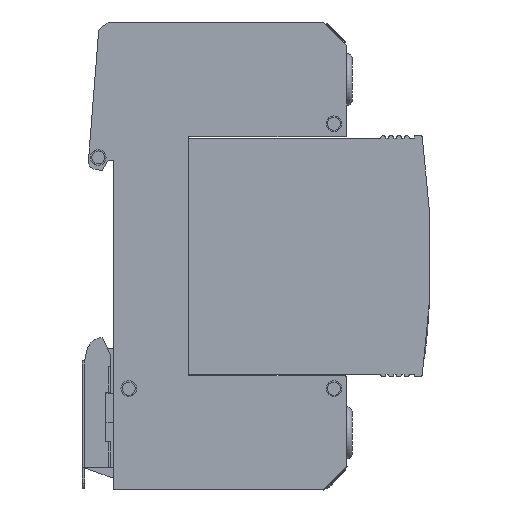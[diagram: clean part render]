
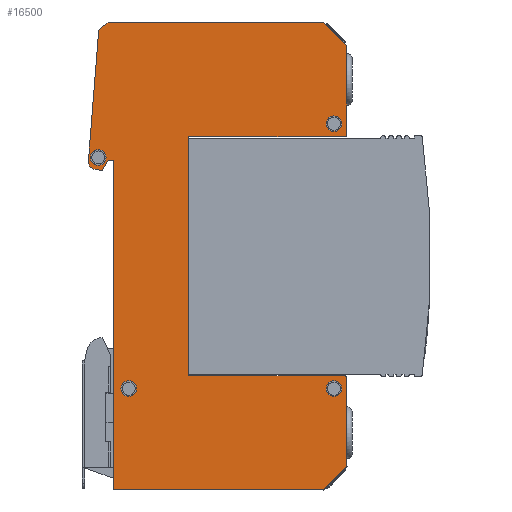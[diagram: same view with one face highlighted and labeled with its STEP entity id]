
A CAD part, front view. The second image highlights one B-rep face of the part: STEP entity #16500.
In plain terms, the highlighted planar face has unit normal (0, -1, 0).
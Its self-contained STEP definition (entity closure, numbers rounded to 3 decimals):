
#14700=CARTESIAN_POINT('',(-14.5,-18.,-45.));
#14701=VERTEX_POINT('',#14700);
#14702=CARTESIAN_POINT('',(26.,-18.,-45.));
#14703=VERTEX_POINT('',#14702);
#14704=CARTESIAN_POINT('',(-14.5,-18.,-45.));
#14705=DIRECTION('',(1.,0.,-0.));
#14706=VECTOR('',#14705,40.5);
#14707=LINE('',#14704,#14706);
#14708=EDGE_CURVE('',#14701,#14703,#14707,.T.);
#15370=CARTESIAN_POINT('',(-14.5,-18.,18.5));
#15371=VERTEX_POINT('',#15370);
#15372=CARTESIAN_POINT('',(-14.5,-18.,18.5));
#15373=DIRECTION('',(0.,0.,-1.));
#15374=VECTOR('',#15373,63.5);
#15375=LINE('',#15372,#15374);
#15376=EDGE_CURVE('',#15371,#14701,#15375,.T.);
#15571=CARTESIAN_POINT('',(-15.5,-18.,45.));
#15572=VERTEX_POINT('',#15571);
#15573=CARTESIAN_POINT('',(-17.29,-18.,43.498));
#15574=VERTEX_POINT('',#15573);
#15575=CARTESIAN_POINT('',(-15.5,-18.,45.));
#15576=DIRECTION('',(-0.766,0.,-0.643));
#15577=VECTOR('',#15576,2.337);
#15578=LINE('',#15575,#15577);
#15579=EDGE_CURVE('',#15572,#15574,#15578,.T.);
#15611=CARTESIAN_POINT('',(-19.273,-18.,18.306));
#15612=VERTEX_POINT('',#15611);
#15613=CARTESIAN_POINT('',(-17.29,-18.,43.498));
#15614=DIRECTION('',(-0.078,0.,-0.997));
#15615=VECTOR('',#15614,25.27);
#15616=LINE('',#15613,#15615);
#15617=EDGE_CURVE('',#15574,#15612,#15616,.T.);
#15642=CARTESIAN_POINT('',(-17.999,-18.,16.704));
#15643=VERTEX_POINT('',#15642);
#15644=CARTESIAN_POINT('',(-17.777,-18.,18.188));
#15645=DIRECTION('',(0.,-1.,0.));
#15646=DIRECTION('',(0.,0.,1.));
#15647=AXIS2_PLACEMENT_3D('',#15644,#15645,#15646);
#15648=CIRCLE('',#15647,1.5);
#15649=EDGE_CURVE('',#15612,#15643,#15648,.T.);
#15675=CARTESIAN_POINT('',(-16.632,-18.,16.5));
#15676=VERTEX_POINT('',#15675);
#15677=CARTESIAN_POINT('',(-17.999,-18.,16.704));
#15678=DIRECTION('',(0.989,0.,-0.148));
#15679=VECTOR('',#15678,1.383);
#15680=LINE('',#15677,#15679);
#15681=EDGE_CURVE('',#15643,#15676,#15680,.T.);
#15706=CARTESIAN_POINT('',(-15.5,-18.,18.5));
#15707=VERTEX_POINT('',#15706);
#15708=CARTESIAN_POINT('',(-16.632,-18.,16.5));
#15709=DIRECTION('',(0.492,0.,0.87));
#15710=VECTOR('',#15709,2.298);
#15711=LINE('',#15708,#15710);
#15712=EDGE_CURVE('',#15676,#15707,#15711,.T.);
#15737=CARTESIAN_POINT('',(-15.5,-18.,18.5));
#15738=DIRECTION('',(1.,0.,0.));
#15739=VECTOR('',#15738,1.);
#15740=LINE('',#15737,#15739);
#15741=EDGE_CURVE('',#15707,#15371,#15740,.T.);
#15759=CARTESIAN_POINT('',(30.5,-18.,-40.5));
#15760=VERTEX_POINT('',#15759);
#15761=CARTESIAN_POINT('',(26.,-18.,-45.));
#15762=DIRECTION('',(0.707,0.,0.707));
#15763=VECTOR('',#15762,6.364);
#15764=LINE('',#15761,#15763);
#15765=EDGE_CURVE('',#14703,#15760,#15764,.T.);
#15810=CARTESIAN_POINT('',(30.5,-18.,-23.5));
#15811=VERTEX_POINT('',#15810);
#15812=CARTESIAN_POINT('',(30.5,-18.,-40.5));
#15813=DIRECTION('',(0.,0.,1.));
#15814=VECTOR('',#15813,17.);
#15815=LINE('',#15812,#15814);
#15816=EDGE_CURVE('',#15760,#15811,#15815,.T.);
#15841=CARTESIAN_POINT('',(30.,-18.,-23.));
#15842=VERTEX_POINT('',#15841);
#15843=CARTESIAN_POINT('',(30.,-18.,-23.5));
#15844=DIRECTION('',(0.,-1.,0.));
#15845=DIRECTION('',(0.,0.,1.));
#15846=AXIS2_PLACEMENT_3D('',#15843,#15844,#15845);
#15847=CIRCLE('',#15846,0.5);
#15848=EDGE_CURVE('',#15811,#15842,#15847,.T.);
#15874=CARTESIAN_POINT('',(0.,-18.,-23.));
#15875=VERTEX_POINT('',#15874);
#15876=CARTESIAN_POINT('',(30.,-18.,-23.));
#15877=DIRECTION('',(-1.,0.,0.));
#15878=VECTOR('',#15877,30.);
#15879=LINE('',#15876,#15878);
#15880=EDGE_CURVE('',#15842,#15875,#15879,.T.);
#15905=CARTESIAN_POINT('',(0.,-18.,23.));
#15906=VERTEX_POINT('',#15905);
#15907=CARTESIAN_POINT('',(0.,-18.,-23.));
#15908=DIRECTION('',(0.,0.,1.));
#15909=VECTOR('',#15908,46.);
#15910=LINE('',#15907,#15909);
#15911=EDGE_CURVE('',#15875,#15906,#15910,.T.);
#15936=CARTESIAN_POINT('',(30.,-18.,23.));
#15937=VERTEX_POINT('',#15936);
#15938=CARTESIAN_POINT('',(0.,-18.,23.));
#15939=DIRECTION('',(1.,0.,0.));
#15940=VECTOR('',#15939,30.);
#15941=LINE('',#15938,#15940);
#15942=EDGE_CURVE('',#15906,#15937,#15941,.T.);
#15967=CARTESIAN_POINT('',(30.5,-18.,23.5));
#15968=VERTEX_POINT('',#15967);
#15969=CARTESIAN_POINT('',(30.,-18.,23.5));
#15970=DIRECTION('',(0.,-1.,0.));
#15971=DIRECTION('',(0.,0.,1.));
#15972=AXIS2_PLACEMENT_3D('',#15969,#15970,#15971);
#15973=CIRCLE('',#15972,0.5);
#15974=EDGE_CURVE('',#15937,#15968,#15973,.T.);
#16020=CARTESIAN_POINT('',(30.5,-18.,40.5));
#16021=VERTEX_POINT('',#16020);
#16022=CARTESIAN_POINT('',(30.5,-18.,23.5));
#16023=DIRECTION('',(0.,0.,1.));
#16024=VECTOR('',#16023,17.);
#16025=LINE('',#16022,#16024);
#16026=EDGE_CURVE('',#15968,#16021,#16025,.T.);
#16051=CARTESIAN_POINT('',(26.,-18.,45.));
#16052=VERTEX_POINT('',#16051);
#16053=CARTESIAN_POINT('',(30.5,-18.,40.5));
#16054=DIRECTION('',(-0.707,0.,0.707));
#16055=VECTOR('',#16054,6.364);
#16056=LINE('',#16053,#16055);
#16057=EDGE_CURVE('',#16021,#16052,#16056,.T.);
#16082=CARTESIAN_POINT('',(-17.38,-18.,17.5));
#16083=VERTEX_POINT('',#16082);
#16092=CARTESIAN_POINT('',(-18.88,-18.,19.));
#16093=VERTEX_POINT('',#16092);
#16094=CARTESIAN_POINT('',(-17.38,-18.,19.));
#16095=DIRECTION('',(0.,-1.,0.));
#16096=DIRECTION('',(-1.,0.,0.));
#16097=AXIS2_PLACEMENT_3D('',#16094,#16095,#16096);
#16098=CIRCLE('',#16097,1.5);
#16099=EDGE_CURVE('',#16083,#16093,#16098,.T.);
#16124=CARTESIAN_POINT('',(28.,-18.,24.));
#16125=VERTEX_POINT('',#16124);
#16134=CARTESIAN_POINT('',(26.5,-18.,25.5));
#16135=VERTEX_POINT('',#16134);
#16136=CARTESIAN_POINT('',(28.,-18.,25.5));
#16137=DIRECTION('',(0.,-1.,0.));
#16138=DIRECTION('',(-1.,0.,0.));
#16139=AXIS2_PLACEMENT_3D('',#16136,#16137,#16138);
#16140=CIRCLE('',#16139,1.5);
#16141=EDGE_CURVE('',#16125,#16135,#16140,.T.);
#16166=CARTESIAN_POINT('',(-11.5,-18.,-27.));
#16167=VERTEX_POINT('',#16166);
#16176=CARTESIAN_POINT('',(-13.,-18.,-25.5));
#16177=VERTEX_POINT('',#16176);
#16178=CARTESIAN_POINT('',(-11.5,-18.,-25.5));
#16179=DIRECTION('',(0.,-1.,0.));
#16180=DIRECTION('',(-1.,0.,0.));
#16181=AXIS2_PLACEMENT_3D('',#16178,#16179,#16180);
#16182=CIRCLE('',#16181,1.5);
#16183=EDGE_CURVE('',#16167,#16177,#16182,.T.);
#16208=CARTESIAN_POINT('',(28.,-18.,-27.));
#16209=VERTEX_POINT('',#16208);
#16218=CARTESIAN_POINT('',(26.5,-18.,-25.5));
#16219=VERTEX_POINT('',#16218);
#16220=CARTESIAN_POINT('',(28.,-18.,-25.5));
#16221=DIRECTION('',(0.,-1.,0.));
#16222=DIRECTION('',(-1.,0.,0.));
#16223=AXIS2_PLACEMENT_3D('',#16220,#16221,#16222);
#16224=CIRCLE('',#16223,1.5);
#16225=EDGE_CURVE('',#16209,#16219,#16224,.T.);
#16352=CARTESIAN_POINT('',(26.,-18.,45.));
#16353=DIRECTION('',(-1.,0.,0.));
#16354=VECTOR('',#16353,41.5);
#16355=LINE('',#16352,#16354);
#16356=EDGE_CURVE('',#16052,#15572,#16355,.T.);
#16435=CARTESIAN_POINT('',(0.,-18.,0.));
#16436=DIRECTION('',(0.,-1.,0.));
#16437=DIRECTION('',(0.,0.,1.));
#16438=AXIS2_PLACEMENT_3D('',#16435,#16436,#16437);
#16439=PLANE('',#16438);
#16440=ORIENTED_EDGE('',*,*,#16225,.F.);
#16441=CARTESIAN_POINT('',(28.,-18.,-25.5));
#16442=DIRECTION('',(0.,-1.,0.));
#16443=DIRECTION('',(-1.,0.,0.));
#16444=AXIS2_PLACEMENT_3D('',#16441,#16442,#16443);
#16445=CIRCLE('',#16444,1.5);
#16446=EDGE_CURVE('',#16219,#16209,#16445,.T.);
#16447=ORIENTED_EDGE('',*,*,#16446,.F.);
#16448=EDGE_LOOP('',(#16440,#16447));
#16449=FACE_BOUND('',#16448,.T.);
#16450=ORIENTED_EDGE('',*,*,#16183,.F.);
#16451=CARTESIAN_POINT('',(-11.5,-18.,-25.5));
#16452=DIRECTION('',(0.,-1.,0.));
#16453=DIRECTION('',(-1.,0.,0.));
#16454=AXIS2_PLACEMENT_3D('',#16451,#16452,#16453);
#16455=CIRCLE('',#16454,1.5);
#16456=EDGE_CURVE('',#16177,#16167,#16455,.T.);
#16457=ORIENTED_EDGE('',*,*,#16456,.F.);
#16458=EDGE_LOOP('',(#16450,#16457));
#16459=FACE_BOUND('',#16458,.T.);
#16460=ORIENTED_EDGE('',*,*,#16141,.F.);
#16461=CARTESIAN_POINT('',(28.,-18.,25.5));
#16462=DIRECTION('',(0.,-1.,0.));
#16463=DIRECTION('',(-1.,0.,0.));
#16464=AXIS2_PLACEMENT_3D('',#16461,#16462,#16463);
#16465=CIRCLE('',#16464,1.5);
#16466=EDGE_CURVE('',#16135,#16125,#16465,.T.);
#16467=ORIENTED_EDGE('',*,*,#16466,.F.);
#16468=EDGE_LOOP('',(#16460,#16467));
#16469=FACE_BOUND('',#16468,.T.);
#16470=ORIENTED_EDGE('',*,*,#16099,.F.);
#16471=CARTESIAN_POINT('',(-17.38,-18.,19.));
#16472=DIRECTION('',(0.,-1.,0.));
#16473=DIRECTION('',(-1.,0.,0.));
#16474=AXIS2_PLACEMENT_3D('',#16471,#16472,#16473);
#16475=CIRCLE('',#16474,1.5);
#16476=EDGE_CURVE('',#16093,#16083,#16475,.T.);
#16477=ORIENTED_EDGE('',*,*,#16476,.F.);
#16478=EDGE_LOOP('',(#16470,#16477));
#16479=FACE_BOUND('',#16478,.T.);
#16480=ORIENTED_EDGE('',*,*,#15579,.T.);
#16481=ORIENTED_EDGE('',*,*,#15617,.T.);
#16482=ORIENTED_EDGE('',*,*,#15649,.T.);
#16483=ORIENTED_EDGE('',*,*,#15681,.T.);
#16484=ORIENTED_EDGE('',*,*,#15712,.T.);
#16485=ORIENTED_EDGE('',*,*,#15741,.T.);
#16486=ORIENTED_EDGE('',*,*,#15376,.T.);
#16487=ORIENTED_EDGE('',*,*,#14708,.T.);
#16488=ORIENTED_EDGE('',*,*,#15765,.T.);
#16489=ORIENTED_EDGE('',*,*,#15816,.T.);
#16490=ORIENTED_EDGE('',*,*,#15848,.T.);
#16491=ORIENTED_EDGE('',*,*,#15880,.T.);
#16492=ORIENTED_EDGE('',*,*,#15911,.T.);
#16493=ORIENTED_EDGE('',*,*,#15942,.T.);
#16494=ORIENTED_EDGE('',*,*,#15974,.T.);
#16495=ORIENTED_EDGE('',*,*,#16026,.T.);
#16496=ORIENTED_EDGE('',*,*,#16057,.T.);
#16497=ORIENTED_EDGE('',*,*,#16356,.T.);
#16498=EDGE_LOOP('',(#16480,#16481,#16482,#16483,#16484,#16485,#16486,#16487,#16488,#16489,#16490,#16491,#16492,#16493,#16494,#16495,#16496,#16497));
#16499=FACE_BOUND('',#16498,.T.);
#16500=ADVANCED_FACE('',(#16449,#16459,#16469,#16479,#16499),#16439,.T.);
